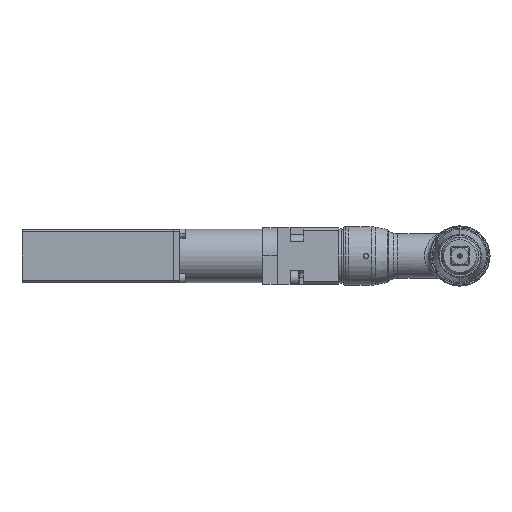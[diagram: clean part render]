
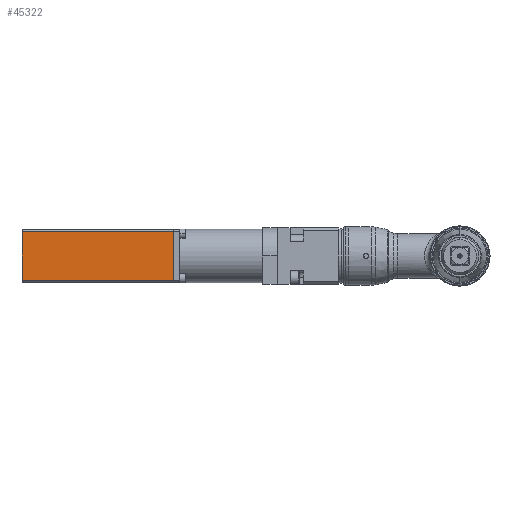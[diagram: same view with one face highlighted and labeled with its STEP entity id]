
A CAD part, front view. The second image highlights one B-rep face of the part: STEP entity #45322.
In plain terms, the highlighted planar face has unit normal (0, -1, 0).
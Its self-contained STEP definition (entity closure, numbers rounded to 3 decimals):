
#945 = ORIENTED_EDGE ( 'NONE', *, *, #4989, .F. ) ;
#3991 = VERTEX_POINT ( 'NONE', #32291 ) ;
#4989 = EDGE_CURVE ( 'NONE', #81618, #39688, #66468, .T. ) ;
#9827 = DIRECTION ( 'NONE',  ( 0., -1., 0. ) ) ;
#12377 = DIRECTION ( 'NONE',  ( 0., 0., -1. ) ) ;
#13347 = CARTESIAN_POINT ( 'NONE',  ( -113., -20., -18. ) ) ;
#14399 = DIRECTION ( 'NONE',  ( 1., 0., 0. ) ) ;
#14503 = LINE ( 'NONE', #34169, #31960 ) ;
#14634 = DIRECTION ( 'NONE',  ( -1., 0., 0. ) ) ;
#14723 = FACE_OUTER_BOUND ( 'NONE', #79365, .T. ) ;
#21294 = VECTOR ( 'NONE', #14634, 1000. ) ;
#23593 = ORIENTED_EDGE ( 'NONE', *, *, #52576, .F. ) ;
#25295 = CARTESIAN_POINT ( 'NONE',  ( 0., -20., 20. ) ) ;
#25447 = ORIENTED_EDGE ( 'NONE', *, *, #83676, .T. ) ;
#30969 = ORIENTED_EDGE ( 'NONE', *, *, #56882, .T. ) ;
#31553 = VECTOR ( 'NONE', #63987, 1000. ) ;
#31960 = VECTOR ( 'NONE', #14399, 1000. ) ;
#32291 = CARTESIAN_POINT ( 'NONE',  ( 0., -20., 18. ) ) ;
#34169 = CARTESIAN_POINT ( 'NONE',  ( -109., -20., -18. ) ) ;
#37097 = LINE ( 'NONE', #25295, #70012 ) ;
#39688 = VERTEX_POINT ( 'NONE', #73063 ) ;
#42213 = PLANE ( 'NONE',  #59573 ) ;
#45322 = ADVANCED_FACE ( 'NONE', ( #14723 ), #42213, .T. ) ;
#47327 = CARTESIAN_POINT ( 'NONE',  ( -109., -20., 18. ) ) ;
#50317 = CARTESIAN_POINT ( 'NONE',  ( 0., -20., -18. ) ) ;
#52576 = EDGE_CURVE ( 'NONE', #3991, #61667, #37097, .T. ) ;
#55692 = DIRECTION ( 'NONE',  ( 0., 0., -1. ) ) ;
#56205 = LINE ( 'NONE', #47327, #21294 ) ;
#56882 = EDGE_CURVE ( 'NONE', #3991, #39688, #56205, .T. ) ;
#59573 = AXIS2_PLACEMENT_3D ( 'NONE', #81910, #9827, #55692 ) ;
#61667 = VERTEX_POINT ( 'NONE', #50317 ) ;
#63987 = DIRECTION ( 'NONE',  ( 0., 0., 1. ) ) ;
#66468 = LINE ( 'NONE', #70301, #31553 ) ;
#70012 = VECTOR ( 'NONE', #12377, 1000. ) ;
#70301 = CARTESIAN_POINT ( 'NONE',  ( -113., -20., -18. ) ) ;
#73063 = CARTESIAN_POINT ( 'NONE',  ( -113., -20., 18. ) ) ;
#79365 = EDGE_LOOP ( 'NONE', ( #25447, #23593, #30969, #945 ) ) ;
#81618 = VERTEX_POINT ( 'NONE', #13347 ) ;
#81910 = CARTESIAN_POINT ( 'NONE',  ( -109., -20., 20. ) ) ;
#83676 = EDGE_CURVE ( 'NONE', #81618, #61667, #14503, .T. ) ;
